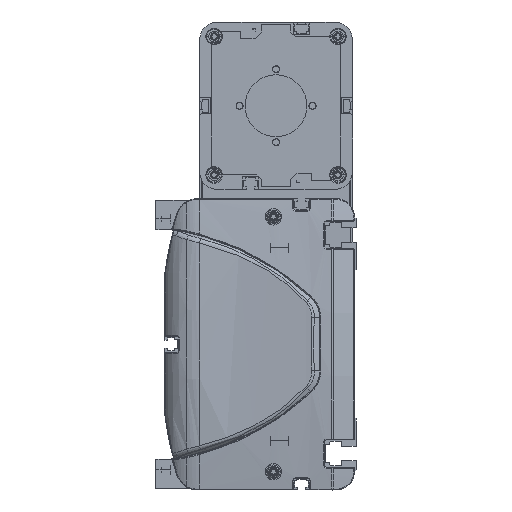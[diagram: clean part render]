
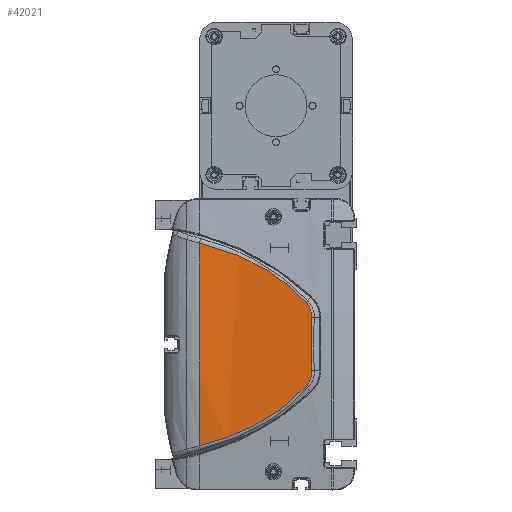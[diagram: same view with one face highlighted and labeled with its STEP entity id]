
A CAD part, left-side view. The second image highlights one B-rep face of the part: STEP entity #42021.
In plain terms, the highlighted cylindrical face has radius 600 mm (diameter 1200 mm), a partial arc.
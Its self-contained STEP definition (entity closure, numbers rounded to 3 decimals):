
#15290=CARTESIAN_POINT('',(-12.406,86.,
55.736));
#15291=CARTESIAN_POINT('',(-12.529,80.495,
54.41));
#15292=CARTESIAN_POINT('',(-12.828,69.636,
51.114));
#15293=CARTESIAN_POINT('',(-13.389,54.079,
44.179));
#15294=CARTESIAN_POINT('',(-14.01,39.709,
34.979));
#15295=CARTESIAN_POINT('',(-14.395,31.353,
27.243));
#15296=CARTESIAN_POINT('',(-14.555,27.451,
23.113));
#15298=CARTESIAN_POINT('',(-14.555,27.451,
23.113));
#15299=CARTESIAN_POINT('',(-14.641,25.336,
20.875));
#15300=CARTESIAN_POINT('',(-14.745,24.202,
17.745));
#15301=CARTESIAN_POINT('',(-14.821,24.351,
14.67));
#15303=CARTESIAN_POINT('',(-14.821,24.351,
14.67));
#15304=CARTESIAN_POINT('',(-14.9,24.51,
11.413));
#15305=CARTESIAN_POINT('',(-15.007,24.721,
4.895));
#15306=CARTESIAN_POINT('',(-15.007,24.721,
-4.895));
#15307=CARTESIAN_POINT('',(-14.9,24.51,
-11.413));
#15308=CARTESIAN_POINT('',(-14.821,24.351,
-14.67));
#15310=CARTESIAN_POINT('',(-14.821,24.351,
-14.67));
#15311=CARTESIAN_POINT('',(-14.745,24.202,
-17.745));
#15312=CARTESIAN_POINT('',(-14.641,25.337,
-20.876));
#15313=CARTESIAN_POINT('',(-14.555,27.451,
-23.113));
#15315=CARTESIAN_POINT('',(-14.555,27.451,
-23.113));
#15316=CARTESIAN_POINT('',(-14.395,31.353,
-27.243));
#15317=CARTESIAN_POINT('',(-14.01,39.709,
-34.979));
#15318=CARTESIAN_POINT('',(-13.389,54.079,
-44.179));
#15319=CARTESIAN_POINT('',(-12.828,69.636,
-51.114));
#15320=CARTESIAN_POINT('',(-12.529,80.495,
-54.41));
#15321=CARTESIAN_POINT('',(-12.406,86.,
-55.736));
#15323=CARTESIAN_POINT('',(585.,86.,0.));
#15324=DIRECTION('',(0.,1.,0.));
#15325=DIRECTION('',(-0.996,0.,-0.093));
#15326=AXIS2_PLACEMENT_3D('',#15323,#15324,#15325);
#15339=CARTESIAN_POINT('',(-12.406,86.,
55.736));
#18824=VERTEX_POINT('',#15339);
#18825=CARTESIAN_POINT('',(-12.406,86.,
-55.736));
#18826=VERTEX_POINT('',#18825);
#18876=VERTEX_POINT('',#15296);
#18877=VERTEX_POINT('',#15301);
#18878=VERTEX_POINT('',#15308);
#18879=VERTEX_POINT('',#15313);
#42003=CARTESIAN_POINT('',(585.,87.45,0.));
#42004=DIRECTION('',(0.,-1.,0.));
#42005=DIRECTION('',(0.,0.,-1.));
#42006=AXIS2_PLACEMENT_3D('',#42003,#42004,#42005);
#42007=CYLINDRICAL_SURFACE('',#42006,600.);
#42009=ORIENTED_EDGE('',*,*,#42008,.T.);
#42011=ORIENTED_EDGE('',*,*,#42010,.T.);
#42013=ORIENTED_EDGE('',*,*,#42012,.T.);
#42014=ORIENTED_EDGE('',*,*,#41993,.T.);
#42016=ORIENTED_EDGE('',*,*,#42015,.T.);
#42018=ORIENTED_EDGE('',*,*,#42017,.T.);
#42019=EDGE_LOOP('',(#42009,#42011,#42013,#42014,#42016,#42018));
#42020=FACE_OUTER_BOUND('',#42019,.F.);
#42021=ADVANCED_FACE('',(#42020),#42007,.T.);
#15297=B_SPLINE_CURVE_WITH_KNOTS('',3,(#15290,#15291,#15292,#15293,#15294,
#15295,#15296),.UNSPECIFIED.,.F.,.F.,(4,1,1,1,4),(0.,0.25,0.5,0.75,
1.),.UNSPECIFIED.);
#15302=B_SPLINE_CURVE_WITH_KNOTS('',3,(#15298,#15299,#15300,#15301),
.UNSPECIFIED.,.F.,.F.,(4,4),(0.,1.),.UNSPECIFIED.);
#15309=B_SPLINE_CURVE_WITH_KNOTS('',3,(#15303,#15304,#15305,#15306,#15307,
#15308),.UNSPECIFIED.,.F.,.F.,(4,1,1,4),(0.,0.333,
0.667,1.),.UNSPECIFIED.);
#15314=B_SPLINE_CURVE_WITH_KNOTS('',3,(#15310,#15311,#15312,#15313),
.UNSPECIFIED.,.F.,.F.,(4,4),(0.,1.),.UNSPECIFIED.);
#15322=B_SPLINE_CURVE_WITH_KNOTS('',3,(#15315,#15316,#15317,#15318,#15319,
#15320,#15321),.UNSPECIFIED.,.F.,.F.,(4,1,1,1,4),(0.,0.25,0.5,0.75,
1.),.UNSPECIFIED.);
#15327=CIRCLE('',#15326,600.);
#41993=EDGE_CURVE('',#18878,#18879,#15314,.T.);
#42008=EDGE_CURVE('',#18824,#18876,#15297,.T.);
#42010=EDGE_CURVE('',#18876,#18877,#15302,.T.);
#42012=EDGE_CURVE('',#18877,#18878,#15309,.T.);
#42015=EDGE_CURVE('',#18879,#18826,#15322,.T.);
#42017=EDGE_CURVE('',#18826,#18824,#15327,.T.);
